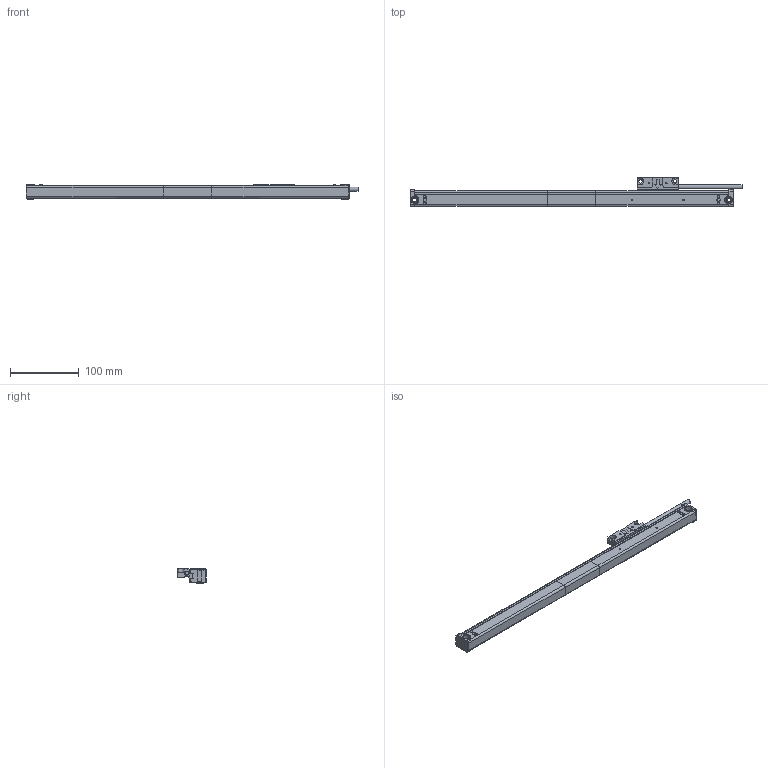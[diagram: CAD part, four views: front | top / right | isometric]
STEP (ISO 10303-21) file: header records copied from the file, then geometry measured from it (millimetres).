
FILE_DESCRIPTION( ( 'STEP AP203' ), '1' );
FILE_NAME( 'N:/Engineering/CAD_Solid/Magnescale/GBER/GB-035ER_SR138-035R.stp', '2013-03-14T10:07:41', ( ' ' ), ( ' ' ), 'XStep 1.0', ' ', ' ' );
FILE_SCHEMA( ( 'CONFIG_CONTROL_DESIGN) ( )' ) );
Length unit declared in the file: metre
Products named in the file (1): 1
Bounding box: 482.5 x 42 x 21 mm (x, y, z)
Surface area: 52540 mm2 (no closed solid volume)
Topology: 0 solids, 308 shells, 308 faces, 1672 edges, 1633 vertices
Faces by surface type: plane 194, cylinder 91, torus 12, cone 9, sphere 1, extrusion 1
Full cylindrical faces by diameter (mm): 2.013 x2, 2.113 x2, 3.242 x2, 4 x8, 4.8 x2, 5 x2, 5.2 x2, 6 x1, 9.8 x2, 10 x2
Entity records: 16187 total; most frequent: CARTESIAN_POINT 3603, DIRECTION 2721, ORIENTED_EDGE 1622, EDGE_CURVE 1622, VERTEX_POINT 1622, VECTOR 1135, LINE 1134, AXIS2_PLACEMENT_3D 793
